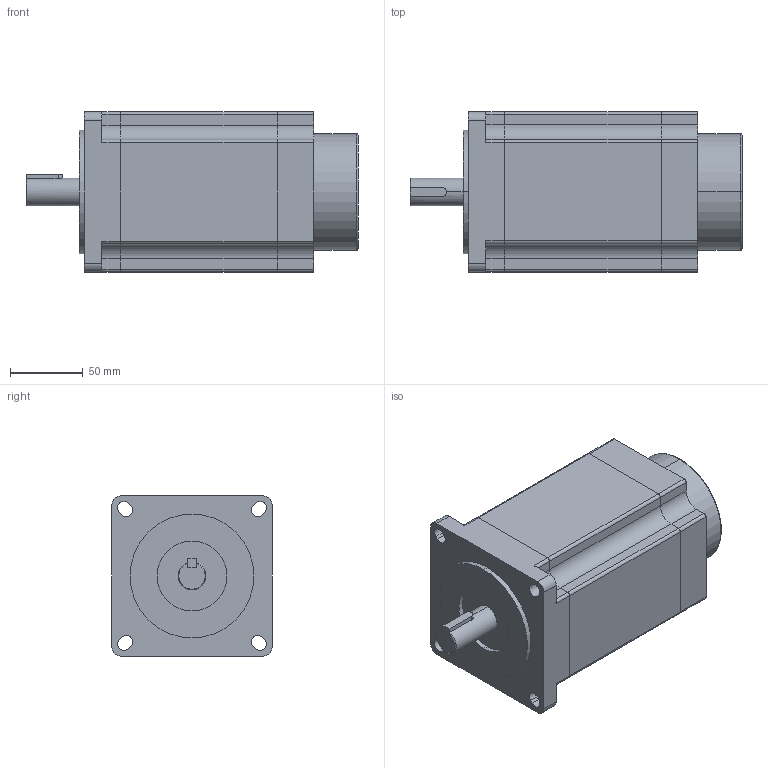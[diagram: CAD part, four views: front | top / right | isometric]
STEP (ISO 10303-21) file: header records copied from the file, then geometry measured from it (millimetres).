
FILE_DESCRIPTION (( 'STEP AP203' ), '1' );
FILE_NAME ('TM4202C60A-P1000.STEP', '2019-02-22T06:19:26', ( 'User' ), ( 'www.dadighost.com' ), 'SwSTEP 2.0', 'SolidWorks 2014', '' );
FILE_SCHEMA (( 'CONFIG_CONTROL_DESIGN' ));
Length unit declared in the file: millimetre
Products named in the file (1): TM4202C60A-P1000
Bounding box: 228 x 110 x 110 mm (x, y, z)
Volume: 1874659.1 mm3; surface area: 145570.8 mm2
Topology: 4 solids, 4 shells, 133 faces, 359 edges, 238 vertices
Faces by surface type: plane 66, cylinder 63, torus 2, cone 2
Entity records: 4328 total; most frequent: CARTESIAN_POINT 769, DIRECTION 753, ORIENTED_EDGE 718, EDGE_CURVE 359, AXIS2_PLACEMENT_3D 264, VERTEX_POINT 238, VECTOR 225, LINE 225
